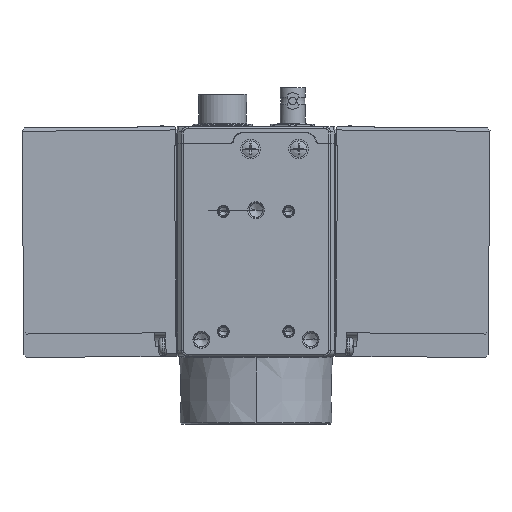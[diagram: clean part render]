
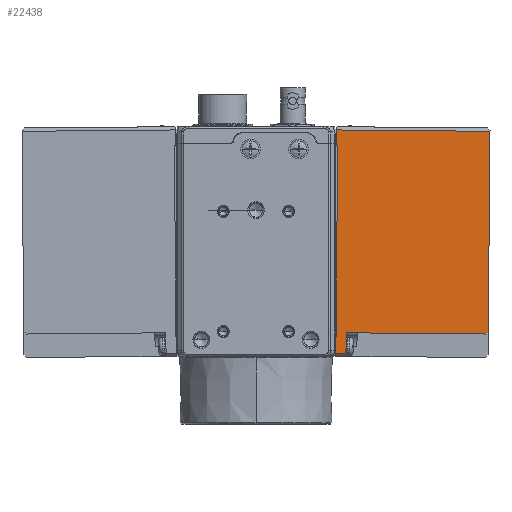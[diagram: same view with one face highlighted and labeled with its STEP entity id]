
A CAD part, front view. The second image highlights one B-rep face of the part: STEP entity #22438.
In plain terms, the highlighted planar face has unit normal (0, -1, 0).
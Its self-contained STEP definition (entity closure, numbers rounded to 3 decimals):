
#499=DIRECTION('',(1.,0.,-0.009));
#500=VECTOR('',#499,25.5);
#501=CARTESIAN_POINT('',(16.494,-13.36,-1.217));
#502=LINE('',#501,#500);
#701=DIRECTION('',(-1.,0.,0.009));
#702=VECTOR('',#701,0.15);
#703=CARTESIAN_POINT('',(14.637,-13.36,-2.001));
#704=LINE('',#703,#702);
#705=DIRECTION('',(0.009,0.,1.));
#706=VECTOR('',#705,35.);
#707=CARTESIAN_POINT('',(14.637,-13.36,-2.001));
#708=LINE('',#707,#706);
#709=DIRECTION('',(-1.,0.,0.009));
#710=VECTOR('',#709,0.15);
#711=CARTESIAN_POINT('',(14.942,-13.36,32.997));
#712=LINE('',#711,#710);
#713=DIRECTION('',(0.009,0.,1.));
#714=VECTOR('',#713,2.9);
#715=CARTESIAN_POINT('',(14.792,-13.36,32.999));
#716=LINE('',#715,#714);
#717=DIRECTION('',(-0.713,0.,-0.701));
#718=VECTOR('',#717,0.707);
#719=CARTESIAN_POINT('',(42.497,-13.36,-0.944));
#720=LINE('',#719,#718);
#721=DIRECTION('',(-0.009,0.,-1.));
#722=VECTOR('',#721,3.8);
#723=CARTESIAN_POINT('',(16.494,-13.36,-1.217));
#724=LINE('',#723,#722);
#725=DIRECTION('',(0.009,0.,1.));
#726=VECTOR('',#725,3.);
#727=CARTESIAN_POINT('',(14.461,-13.36,-5.));
#728=LINE('',#727,#726);
#729=DIRECTION('',(-1.,0.,0.009));
#730=VECTOR('',#729,28.);
#731=CARTESIAN_POINT('',(42.817,-13.36,35.654));
#732=LINE('',#731,#730);
#749=DIRECTION('',(0.009,0.,1.));
#750=VECTOR('',#749,36.6);
#751=CARTESIAN_POINT('',(42.497,-13.36,-0.944));
#752=LINE('',#751,#750);
#772=DIRECTION('',(1.,0.,-0.009));
#773=VECTOR('',#772,2.);
#774=CARTESIAN_POINT('',(14.461,-13.36,-5.));
#775=LINE('',#774,#773);
#19416=CARTESIAN_POINT('',(14.818,-13.36,35.899));
#19417=VERTEX_POINT('',#19416);
#19418=CARTESIAN_POINT('',(14.792,-13.36,32.999));
#19419=VERTEX_POINT('',#19418);
#19420=CARTESIAN_POINT('',(14.487,-13.36,-2.));
#19422=VERTEX_POINT('',#19420);
#19424=CARTESIAN_POINT('',(14.461,-13.36,-5.));
#19425=VERTEX_POINT('',#19424);
#19473=CARTESIAN_POINT('',(16.461,-13.36,-5.017));
#19475=VERTEX_POINT('',#19473);
#19477=CARTESIAN_POINT('',(16.494,-13.36,-1.217));
#19479=VERTEX_POINT('',#19477);
#19508=CARTESIAN_POINT('',(14.637,-13.36,-2.001));
#19509=VERTEX_POINT('',#19508);
#19510=CARTESIAN_POINT('',(14.942,-13.36,32.997));
#19511=VERTEX_POINT('',#19510);
#19512=CARTESIAN_POINT('',(42.817,-13.36,35.654));
#19513=VERTEX_POINT('',#19512);
#19514=CARTESIAN_POINT('',(42.497,-13.36,-0.944));
#19515=CARTESIAN_POINT('',(41.993,-13.36,-1.44));
#19516=VERTEX_POINT('',#19514);
#19517=VERTEX_POINT('',#19515);
#22416=CARTESIAN_POINT('',(28.639,-13.36,15.327));
#22417=DIRECTION('',(0.,1.,0.));
#22418=DIRECTION('',(-0.009,0.,-1.));
#22419=AXIS2_PLACEMENT_3D('',#22416,#22417,#22418);
#22420=PLANE('',#22419);
#22421=ORIENTED_EDGE('',*,*,#21707,.T.);
#22422=ORIENTED_EDGE('',*,*,#21816,.T.);
#22423=ORIENTED_EDGE('',*,*,#21858,.T.);
#22425=ORIENTED_EDGE('',*,*,#22424,.F.);
#22427=ORIENTED_EDGE('',*,*,#22426,.F.);
#22428=ORIENTED_EDGE('',*,*,#22139,.T.);
#22429=ORIENTED_EDGE('',*,*,#22159,.F.);
#22431=ORIENTED_EDGE('',*,*,#22430,.T.);
#22433=ORIENTED_EDGE('',*,*,#22432,.F.);
#22434=ORIENTED_EDGE('',*,*,#22381,.T.);
#22435=ORIENTED_EDGE('',*,*,#22411,.F.);
#22436=EDGE_LOOP('',(#22421,#22422,#22423,#22425,#22427,#22428,#22429,#22431,
#22433,#22434,#22435));
#22437=FACE_OUTER_BOUND('',#22436,.F.);
#22438=ADVANCED_FACE('',(#22437),#22420,.F.);
#21707=EDGE_CURVE('',#19509,#19511,#708,.T.);
#21816=EDGE_CURVE('',#19511,#19419,#712,.T.);
#21858=EDGE_CURVE('',#19419,#19417,#716,.T.);
#22139=EDGE_CURVE('',#19516,#19517,#720,.T.);
#22159=EDGE_CURVE('',#19479,#19517,#502,.T.);
#22381=EDGE_CURVE('',#19425,#19422,#728,.T.);
#22411=EDGE_CURVE('',#19509,#19422,#704,.T.);
#22424=EDGE_CURVE('',#19513,#19417,#732,.T.);
#22426=EDGE_CURVE('',#19516,#19513,#752,.T.);
#22430=EDGE_CURVE('',#19479,#19475,#724,.T.);
#22432=EDGE_CURVE('',#19425,#19475,#775,.T.);
